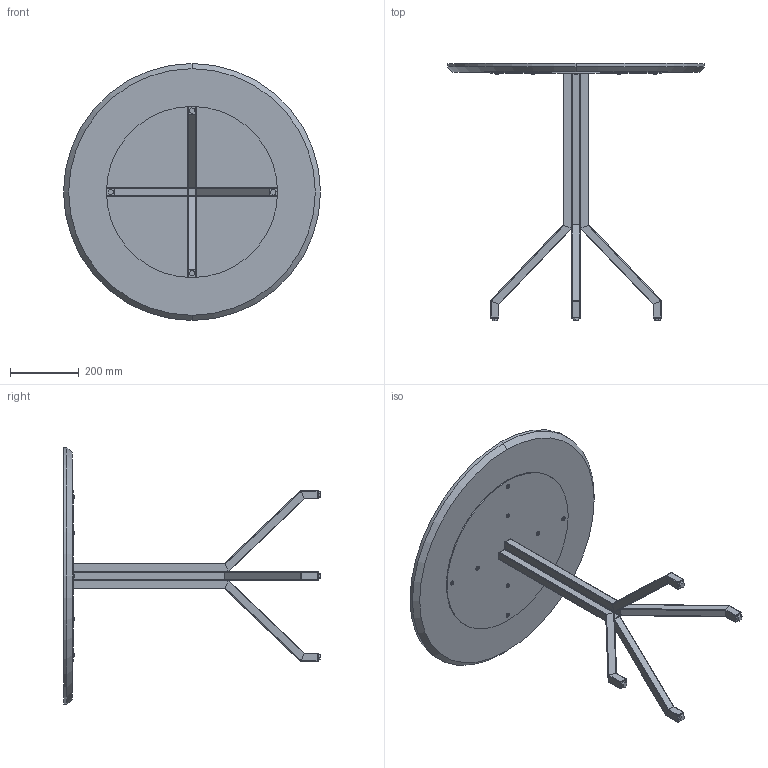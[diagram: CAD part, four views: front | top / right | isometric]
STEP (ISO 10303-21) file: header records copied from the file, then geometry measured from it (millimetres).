
FILE_DESCRIPTION (( 'STEP AP214' ), '1' );
FILE_NAME ('Chakra Table - D750xH750.STEP', '2024-04-04T12:17:57', ( '' ), ( '' ), 'SwSTEP 2.0', 'SolidWorks 2023', '' );
FILE_SCHEMA (( 'AUTOMOTIVE_DESIGN' ));
Length unit declared in the file: millimetre
Products named in the file (8): Wood insert nut_M6R-01; Chakra Table - D750xH750; Wooden TopR-01; M6x16MM Flate head allen BoltR-01; Metal FrameR-01_Default<As Machined>; M6x20MM Hex LevellerR-01; Metal SheetR-01; BushR-01
Assembly tree (27 placements, depth 2):
  Chakra Table - D750xH750
    Metal FrameR-01_Default<As Machined>
    BushR-01  x4
    M6x16MM Flate head allen BoltR-01  x8
    M6x20MM Hex LevellerR-01  x4
    Metal SheetR-01
    Wood insert nut_M6R-01  x8
    Wooden TopR-01
Bounding box: 750 x 750 x 750 mm (x, y, z)
Volume: 11920543.8 mm3; surface area: 2027156 mm2
Topology: 47 solids, 47 shells, 1472 faces, 3852 edges, 2502 vertices
Faces by surface type: cylinder 840, plane 458, torus 76, bspline 64, cone 34
Entity records: 25520 total; most frequent: CARTESIAN_POINT 12141, ORIENTED_EDGE 2854, DIRECTION 2491, EDGE_CURVE 1427, VERTEX_POINT 942, AXIS2_PLACEMENT_3D 858, VECTOR 775, LINE 775
